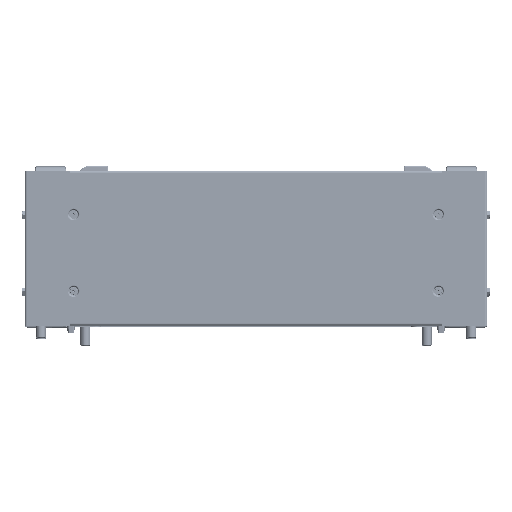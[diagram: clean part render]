
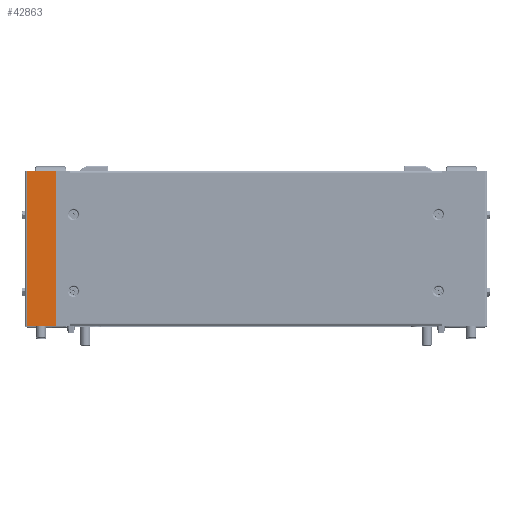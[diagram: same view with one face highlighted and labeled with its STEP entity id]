
A CAD part, top view. The second image highlights one B-rep face of the part: STEP entity #42863.
In plain terms, the highlighted planar face has unit normal (0, 0, 1) as drawn and (1, 0, 0) by its records, which use the part's own axes.
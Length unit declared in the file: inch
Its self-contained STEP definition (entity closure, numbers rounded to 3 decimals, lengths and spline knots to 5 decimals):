
#10374 = CARTESIAN_POINT ( 'NONE',  ( 23.59825, 3.6785, 0.115 ) ) ;
#10456 = CARTESIAN_POINT ( 'NONE',  ( 23.59825, -3.6785, 0.115 ) ) ;
#10532 = DIRECTION ( 'NONE',  ( 0., -1., 0. ) ) ;
#10533 = VECTOR ( 'NONE', #10532, 39.37008 ) ;
#10534 = CARTESIAN_POINT ( 'NONE',  ( 23.59825, -3.6785, 0.115 ) ) ;
#10535 = LINE ( 'NONE', #10534, #10533 ) ;
#10927 = LINE ( 'NONE', #10987, #10986 ) ;
#10939 = DIRECTION ( 'NONE',  ( 0., -1., 0. ) ) ;
#10940 = VECTOR ( 'NONE', #10939, 39.37008 ) ;
#10941 = CARTESIAN_POINT ( 'NONE',  ( 23.59825, 3.6785, 1.492 ) ) ;
#10942 = LINE ( 'NONE', #10941, #10940 ) ;
#10964 = DIRECTION ( 'NONE',  ( 0., 0., 1. ) ) ;
#10965 = DIRECTION ( 'NONE',  ( -1., 0., 0. ) ) ;
#10966 = CARTESIAN_POINT ( 'NONE',  ( 23.59825, 3.6785, 0.055 ) ) ;
#10968 = AXIS2_PLACEMENT_3D ( 'NONE', #10966, #10965, #10964 ) ;
#10969 = PLANE ( 'NONE',  #10968 ) ;
#10970 = FACE_OUTER_BOUND ( 'NONE', #42864, .T. ) ;
#10984 = CARTESIAN_POINT ( 'NONE',  ( 23.59825, -3.6785, 1.492 ) ) ;
#10985 = DIRECTION ( 'NONE',  ( 0., 0., -1. ) ) ;
#10986 = VECTOR ( 'NONE', #10985, 39.37008 ) ;
#10987 = CARTESIAN_POINT ( 'NONE',  ( 23.59825, -3.6785, 0.055 ) ) ;
#11006 = DIRECTION ( 'NONE',  ( 0., 0., 1. ) ) ;
#11007 = VECTOR ( 'NONE', #11006, 39.37008 ) ;
#11008 = CARTESIAN_POINT ( 'NONE',  ( 23.59825, 3.6785, 0.055 ) ) ;
#11009 = LINE ( 'NONE', #11008, #11007 ) ;
#11010 = CARTESIAN_POINT ( 'NONE',  ( 23.59825, 3.6785, 1.492 ) ) ;
#42567 = VERTEX_POINT ( 'NONE', #10374 ) ;
#42581 = VERTEX_POINT ( 'NONE', #10456 ) ;
#42627 = EDGE_CURVE ( 'NONE', #42567, #42581, #10535, .T. ) ;
#42840 = ORIENTED_EDGE ( 'NONE', *, *, #42841, .T. ) ;
#42841 = EDGE_CURVE ( 'NONE', #42876, #42856, #10942, .T. ) ;
#42842 = ORIENTED_EDGE ( 'NONE', *, *, #42855, .T. ) ;
#42855 = EDGE_CURVE ( 'NONE', #42856, #42581, #10927, .T. ) ;
#42856 = VERTEX_POINT ( 'NONE', #10984 ) ;
#42863 = ADVANCED_FACE ( 'NONE', ( #10970 ), #10969, .F. ) ;
#42864 = EDGE_LOOP ( 'NONE', ( #42865, #42866, #42840, #42842 ) ) ;
#42865 = ORIENTED_EDGE ( 'NONE', *, *, #42627, .F. ) ;
#42866 = ORIENTED_EDGE ( 'NONE', *, *, #42878, .T. ) ;
#42876 = VERTEX_POINT ( 'NONE', #11010 ) ;
#42878 = EDGE_CURVE ( 'NONE', #42567, #42876, #11009, .T. ) ;
